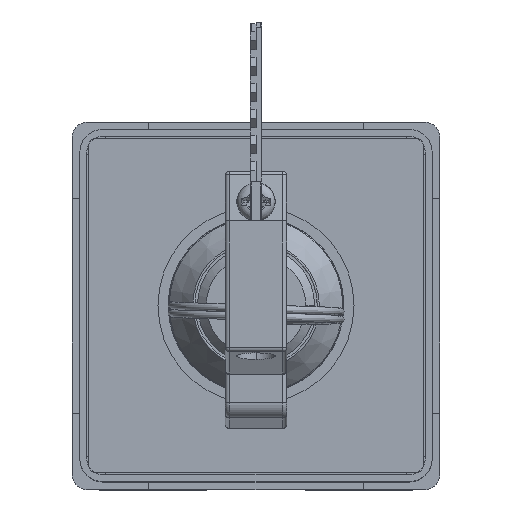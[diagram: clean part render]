
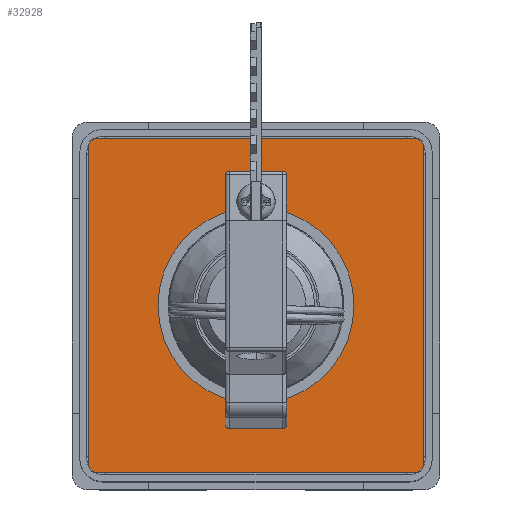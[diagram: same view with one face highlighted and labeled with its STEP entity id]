
A CAD part, top view. The second image highlights one B-rep face of the part: STEP entity #32928.
In plain terms, the highlighted planar face has unit normal (0, 0, 1).
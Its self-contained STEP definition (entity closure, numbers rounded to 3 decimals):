
#295 = VERTEX_POINT ( 'NONE', #50925 ) ;
#1837 = CARTESIAN_POINT ( 'NONE',  ( 6.361, -5.111, -103.332 ) ) ;
#4521 = VERTEX_POINT ( 'NONE', #84391 ) ;
#8515 = CARTESIAN_POINT ( 'NONE',  ( 28.211, 15.739, -103.332 ) ) ;
#11898 = EDGE_LOOP ( 'NONE', ( #24086, #135669, #90610, #24062, #45397, #113508, #64780, #66285 ) ) ;
#16465 = CARTESIAN_POINT ( 'NONE',  ( 28.211, 15.739, -103.332 ) ) ;
#18639 = DIRECTION ( 'NONE',  ( 0., 0., -1. ) ) ;
#20673 = VECTOR ( 'NONE', #52797, 1000. ) ;
#21160 = CARTESIAN_POINT ( 'NONE',  ( -14.489, -25.961, -103.332 ) ) ;
#22022 = EDGE_CURVE ( 'NONE', #64187, #33702, #25926, .T. ) ;
#22755 = CARTESIAN_POINT ( 'NONE',  ( 27.211, 16.739, -103.332 ) ) ;
#24009 = VERTEX_POINT ( 'NONE', #79423 ) ;
#24062 = ORIENTED_EDGE ( 'NONE', *, *, #132516, .F. ) ;
#24086 = ORIENTED_EDGE ( 'NONE', *, *, #39474, .F. ) ;
#24712 = CARTESIAN_POINT ( 'NONE',  ( 27.211, 16.739, -103.332 ) ) ;
#24822 = ORIENTED_EDGE ( 'NONE', *, *, #81996, .T. ) ;
#25926 = CIRCLE ( 'NONE', #157090, 1. ) ;
#28616 = CARTESIAN_POINT ( 'NONE',  ( 27.211, -26.961, -103.332 ) ) ;
#29078 = EDGE_LOOP ( 'NONE', ( #103027, #24822 ) ) ;
#32928 = ADVANCED_FACE ( 'NONE', ( #39634, #35624 ), #162458, .F. ) ;
#33407 = CARTESIAN_POINT ( 'NONE',  ( -6.439, -5.111, -103.332 ) ) ;
#33702 = VERTEX_POINT ( 'NONE', #142821 ) ;
#35593 = DIRECTION ( 'NONE',  ( 0., -1., 0. ) ) ;
#35624 = FACE_OUTER_BOUND ( 'NONE', #11898, .T. ) ;
#39474 = EDGE_CURVE ( 'NONE', #47794, #96043, #147516, .T. ) ;
#39634 = FACE_BOUND ( 'NONE', #29078, .T. ) ;
#41893 = DIRECTION ( 'NONE',  ( -1., 0., 0. ) ) ;
#42762 = DIRECTION ( 'NONE',  ( -1., 0., 0. ) ) ;
#44697 = DIRECTION ( 'NONE',  ( -1., 0., 0. ) ) ;
#45397 = ORIENTED_EDGE ( 'NONE', *, *, #22022, .F. ) ;
#47794 = VERTEX_POINT ( 'NONE', #22755 ) ;
#49764 = DIRECTION ( 'NONE',  ( 1., 0., 0. ) ) ;
#49934 = DIRECTION ( 'NONE',  ( -1., 0., 0. ) ) ;
#50925 = CARTESIAN_POINT ( 'NONE',  ( -14.489, 16.739, -103.332 ) ) ;
#52797 = DIRECTION ( 'NONE',  ( 0., 1., 0. ) ) ;
#53799 = AXIS2_PLACEMENT_3D ( 'NONE', #122629, #18639, #44697 ) ;
#56222 = EDGE_CURVE ( 'NONE', #116575, #71581, #105282, .T. ) ;
#59742 = VECTOR ( 'NONE', #35593, 1000. ) ;
#59847 = DIRECTION ( 'NONE',  ( 0., 0., -1. ) ) ;
#61220 = LINE ( 'NONE', #65386, #20673 ) ;
#61311 = AXIS2_PLACEMENT_3D ( 'NONE', #62437, #140231, #49934 ) ;
#62437 = CARTESIAN_POINT ( 'NONE',  ( 27.211, 15.739, -103.332 ) ) ;
#63962 = EDGE_CURVE ( 'NONE', #295, #47794, #79729, .T. ) ;
#64187 = VERTEX_POINT ( 'NONE', #125635 ) ;
#64780 = ORIENTED_EDGE ( 'NONE', *, *, #78715, .F. ) ;
#65386 = CARTESIAN_POINT ( 'NONE',  ( -15.489, 15.739, -103.332 ) ) ;
#66285 = ORIENTED_EDGE ( 'NONE', *, *, #135710, .F. ) ;
#67660 = CIRCLE ( 'NONE', #100550, 12.8 ) ;
#71581 = VERTEX_POINT ( 'NONE', #120670 ) ;
#76676 = DIRECTION ( 'NONE',  ( -1., 0., 0. ) ) ;
#78715 = EDGE_CURVE ( 'NONE', #24009, #4521, #114215, .T. ) ;
#79423 = CARTESIAN_POINT ( 'NONE',  ( 28.211, -25.961, -103.332 ) ) ;
#79729 = LINE ( 'NONE', #24712, #93974 ) ;
#81996 = EDGE_CURVE ( 'NONE', #71581, #116575, #67660, .T. ) ;
#84391 = CARTESIAN_POINT ( 'NONE',  ( 27.211, -26.961, -103.332 ) ) ;
#90610 = ORIENTED_EDGE ( 'NONE', *, *, #98680, .F. ) ;
#93974 = VECTOR ( 'NONE', #49764, 1000. ) ;
#96043 = VERTEX_POINT ( 'NONE', #16465 ) ;
#98396 = AXIS2_PLACEMENT_3D ( 'NONE', #1837, #119980, #131841 ) ;
#98478 = LINE ( 'NONE', #8515, #59742 ) ;
#98680 = EDGE_CURVE ( 'NONE', #162984, #295, #142264, .T. ) ;
#99812 = DIRECTION ( 'NONE',  ( 0., 0., -1. ) ) ;
#100550 = AXIS2_PLACEMENT_3D ( 'NONE', #112260, #99812, #163404 ) ;
#103027 = ORIENTED_EDGE ( 'NONE', *, *, #56222, .T. ) ;
#105282 = CIRCLE ( 'NONE', #98396, 12.8 ) ;
#106519 = CARTESIAN_POINT ( 'NONE',  ( -15.489, 15.739, -103.332 ) ) ;
#111030 = DIRECTION ( 'NONE',  ( -1., 0., 0. ) ) ;
#112260 = CARTESIAN_POINT ( 'NONE',  ( 6.361, -5.111, -103.332 ) ) ;
#112531 = EDGE_CURVE ( 'NONE', #4521, #64187, #165484, .T. ) ;
#113508 = ORIENTED_EDGE ( 'NONE', *, *, #112531, .F. ) ;
#114215 = CIRCLE ( 'NONE', #155288, 1. ) ;
#116575 = VERTEX_POINT ( 'NONE', #33407 ) ;
#119843 = DIRECTION ( 'NONE',  ( 0., 0., -1. ) ) ;
#119980 = DIRECTION ( 'NONE',  ( 0., 0., -1. ) ) ;
#120670 = CARTESIAN_POINT ( 'NONE',  ( 19.161, -5.111, -103.332 ) ) ;
#120694 = VECTOR ( 'NONE', #42762, 1000. ) ;
#122629 = CARTESIAN_POINT ( 'NONE',  ( -14.489, 15.739, -103.332 ) ) ;
#125635 = CARTESIAN_POINT ( 'NONE',  ( -14.489, -26.961, -103.332 ) ) ;
#131841 = DIRECTION ( 'NONE',  ( -1., 0., 0. ) ) ;
#132516 = EDGE_CURVE ( 'NONE', #33702, #162984, #61220, .T. ) ;
#135669 = ORIENTED_EDGE ( 'NONE', *, *, #63962, .F. ) ;
#135710 = EDGE_CURVE ( 'NONE', #96043, #24009, #98478, .T. ) ;
#139294 = CARTESIAN_POINT ( 'NONE',  ( 27.211, -25.961, -103.332 ) ) ;
#140231 = DIRECTION ( 'NONE',  ( 0., 0., -1. ) ) ;
#141357 = DIRECTION ( 'NONE',  ( 0., 0., -1. ) ) ;
#142264 = CIRCLE ( 'NONE', #53799, 1. ) ;
#142821 = CARTESIAN_POINT ( 'NONE',  ( -15.489, -25.961, -103.332 ) ) ;
#144685 = AXIS2_PLACEMENT_3D ( 'NONE', #158483, #119843, #41893 ) ;
#147516 = CIRCLE ( 'NONE', #144685, 1. ) ;
#155288 = AXIS2_PLACEMENT_3D ( 'NONE', #139294, #59847, #111030 ) ;
#157090 = AXIS2_PLACEMENT_3D ( 'NONE', #21160, #141357, #76676 ) ;
#158483 = CARTESIAN_POINT ( 'NONE',  ( 27.211, 15.739, -103.332 ) ) ;
#162458 = PLANE ( 'NONE',  #61311 ) ;
#162984 = VERTEX_POINT ( 'NONE', #106519 ) ;
#163404 = DIRECTION ( 'NONE',  ( -1., 0., 0. ) ) ;
#165484 = LINE ( 'NONE', #28616, #120694 ) ;
